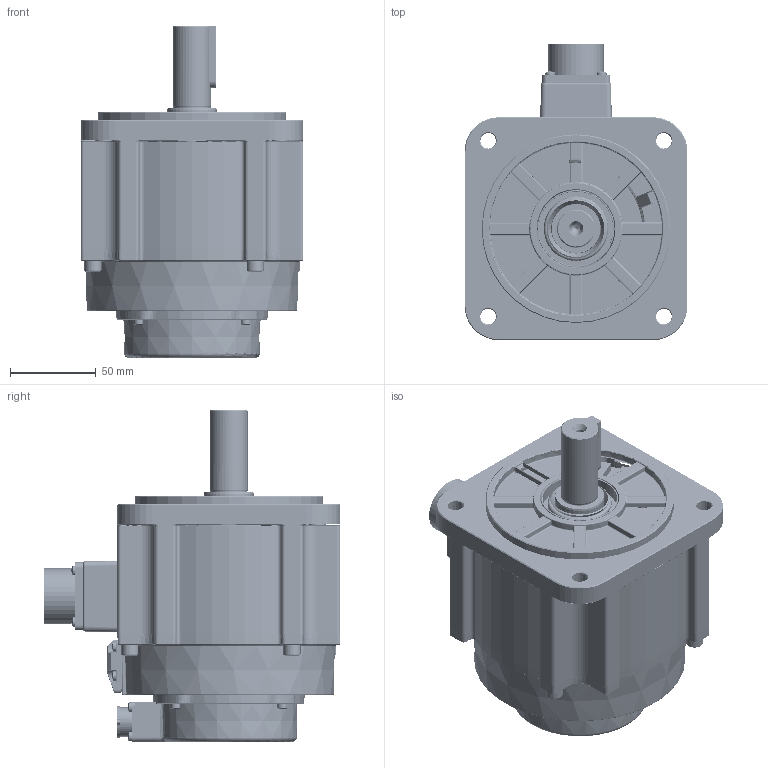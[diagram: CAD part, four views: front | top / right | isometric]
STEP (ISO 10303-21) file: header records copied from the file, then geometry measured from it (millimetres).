
FILE_DESCRIPTION (( 'STEP AP203' ), '1' );
FILE_NAME ('130µç»ú_DM2A-09A130I8E.STEP', '2025-04-08T06:56:48', ( 'MIDEA' ), ( 'MIDEA' ), 'SwSTEP 2.0', 'SolidWorks 2020', '' );
FILE_SCHEMA (( 'CONFIG_CONTROL_DESIGN' ));
Length unit declared in the file: millimetre
Products named in the file (35): 1030204-0056_萇埭脣釱-YD28J7Z; 2010200-0186_十字盘头带垫螺丝-M3x4（镀白镍); 1022500-0070_深沟球轴承_深沟球轴承-6206ZZCML448; 1022700-0047_130躇猾菜_MFD15A130DM1S; 23BIT_EN_PH3_蕼偞; 1022900-0078_秶雄ん堤盄裔_CXG15A130DM1S; 130珨极褲_YTK09A130DM2A; 1022400-0052_无励磁制动器_Z092-S130（24V）16C25; 2011200-0089_疏倛粟銅-孜62x孜51.69x2.36x0.61; 蛌赽郪璃_ZZ09A130DM2A-B; 2010100-0180_内六角圆柱头螺钉-M3x10-8.8级-镀锌镍合金+耐落(GB-T 70.1); 130粣_Z09A130DM2A-B; 2010200-0227_十字槽盘头螺钉-M3x30-8.8级-镀锌镍合金+耐落(GB-T818 2000); 1022500-0071_深沟球轴承_深沟球轴承-6204LUZCML448; 2010100-0197_内六角圆柱头螺钉-M5x12-8.8级-镀锌镍合金+耐落+密封(GB-T 70.1); 3020106-0048_130编码器成品_130编码器组件（130编码器组件（DM2黑色后罩壳 锐鹰端子式 出线17）; 2010100-0185_内六角圆柱头螺钉-M6x20-8.8级-镀锌镍合金+耐落(GB-T 70.1); 1022600-0017_蚐猾-TC30X45X8-NBR; 1022700-0046_130O型圈_OR15A130DM1S; 1030207-0244_130蟀諉ん價釱躇猾菜_LQMF15A130DM1S; 1030207-0243_130蟀諉ん價釱_LQZ15A130DM1S; 2010500-0094_す瑩-B8x7x32-湍M3れ瑩蹟恇謂(GB-T 1096-2003); 棠詩_CG09A130DM2A; 130綴傷裔_HDG13A130DM2A-B; 130萇儂_DM2A-09A130I8E; 130隅赽傖こ_DZ09A130DM2A-B; 130珨极褲禱矗_YTK09A130DM2AM; 3021200-0021_130后罩壳（黑色）_HZK15A130DM1S-H; 2010200-0231_十字槽盘头自挤螺钉-M3x8-镀锌镍合金（黑）（GB-T 6560）; 1022700-0049_秶雄ん堤盄躇猾菜_CXMFQ15A130DM1S; 130綴傷裔禱矗_HDG13A130PH3SM-B; 1030204-0223_信号连接器公座-连接器插座23.4x23.4mm-插针10xΦ0.7-工作电流3A-耐压900V额定200V; 3026400-0030_动力连接器插座组件_DLQ15A130DM1S-B; 1012100-0156_濮揤諉盄傷赽_RV2-3懦; 2010200-0229十字槽盘头螺钉-M3x8-8.8级-镀锌镍合金+耐落+密封(GB-T818 2000)
Assembly tree (60 placements, depth 4):
  130萇儂_DM2A-09A130I8E
    130隅赽傖こ_DZ09A130DM2A-B
      1030207-0243_130蟀諉ん價釱_LQZ15A130DM1S
      2010200-0186_十字盘头带垫螺丝-M3x4（镀白镍)
      2010200-0227_十字槽盘头螺钉-M3x30-8.8级-镀锌镍合金+耐落(GB-T818 2000)  x4
      3026400-0030_动力连接器插座组件_DLQ15A130DM1S-B
        1030204-0056_萇埭脣釱-YD28J7Z
        1012100-0156_濮揤諉盄傷赽_RV2-3懦
      1030207-0244_130蟀諉ん價釱躇猾菜_LQMF15A130DM1S
      130珨极褲_YTK09A130DM2A
        130珨极褲禱矗_YTK09A130DM2AM
    130綴傷裔_HDG13A130DM2A-B
      130綴傷裔禱矗_HDG13A130PH3SM-B
    蛌赽郪璃_ZZ09A130DM2A-B
      130粣_Z09A130DM2A-B
      1022500-0070_深沟球轴承_深沟球轴承-6206ZZCML448
      1022500-0071_深沟球轴承_深沟球轴承-6204LUZCML448
      棠詩_CG09A130DM2A  x10
    2011200-0089_疏倛粟銅-孜62x孜51.69x2.36x0.61
    1022600-0017_蚐猾-TC30X45X8-NBR
    1022700-0046_130O型圈_OR15A130DM1S
    2010100-0185_内六角圆柱头螺钉-M6x20-8.8级-镀锌镍合金+耐落(GB-T 70.1)  x4
    2010100-0180_内六角圆柱头螺钉-M3x10-8.8级-镀锌镍合金+耐落(GB-T 70.1)  x4
    2010500-0094_す瑩-B8x7x32-湍M3れ瑩蹟恇謂(GB-T 1096-2003)
    3020106-0048_130编码器成品_130编码器组件（130编码器组件（DM2黑色后罩壳 锐鹰端子式 出线17）
      3021200-0021_130后罩壳（黑色）_HZK15A130DM1S-H
      1030204-0223_信号连接器公座-连接器插座23.4x23.4mm-插针10xΦ0.7-工作电流3A-耐压900V额定200V
      2010200-0231_十字槽盘头自挤螺钉-M3x8-镀锌镍合金（黑）（GB-T 6560）  x4
    1022700-0047_130躇猾菜_MFD15A130DM1S
    1022700-0049_秶雄ん堤盄躇猾菜_CXMFQ15A130DM1S
    1022900-0078_秶雄ん堤盄裔_CXG15A130DM1S
    2010200-0229十字槽盘头螺钉-M3x8-8.8级-镀锌镍合金+耐落+密封(GB-T818 2000)  x4
    1022400-0052_无励磁制动器_Z092-S130（24V）16C25
    2010100-0197_内六角圆柱头螺钉-M5x12-8.8级-镀锌镍合金+耐落+密封(GB-T 70.1)  x3
    23BIT_EN_PH3_蕼偞
Bounding box: 130 x 173 x 193.65 mm (x, y, z)
Volume: 616441.5 mm3; surface area: 376068.9 mm2
Topology: 81 solids, 82 shells, 10157 faces, 26138 edges, 16937 vertices
Faces by surface type: plane 5298, cylinder 2110, bspline 1884, cone 428, torus 281, sphere 156
Full cylindrical faces by diameter (mm): 0.2 x2, 1.2 x1, 1.6 x8, 2 x2, 2.2 x2, 2.4 x3, 2.5 x31, 2.7 x4, 2.8 x4, 3 x23, 3.1 x1, 3.5 x15, 3.6 x6, 3.8 x4, 4 x3, 4.71 x1, 5 x11, 5.5 x5, 5.6 x12, 6 x7, 7 x1, 7.5 x1, 8 x2, 8.5 x3, 10 x4, 11.5 x1, 12.1 x1, 12.4 x1, 13 x1, 13.2 x1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
Entity records: 376296 total; most frequent: CARTESIAN_POINT 147240, ORIENTED_EDGE 48962, DIRECTION 41179, EDGE_CURVE 24481, VERTEX_POINT 16120, VECTOR 15001, LINE 15001, AXIS2_PLACEMENT_3D 13089
